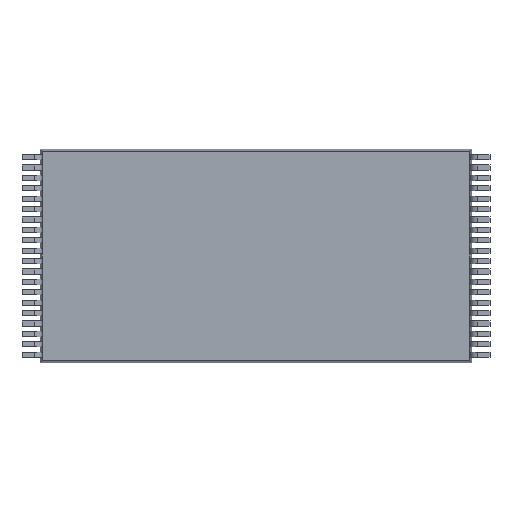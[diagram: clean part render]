
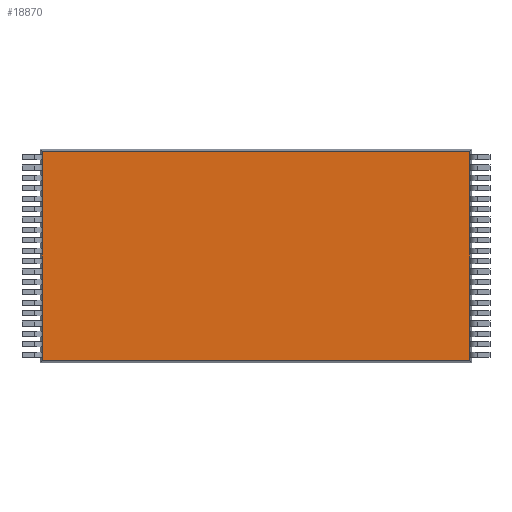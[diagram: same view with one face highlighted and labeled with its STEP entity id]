
A CAD part, front view. The second image highlights one B-rep face of the part: STEP entity #18870.
In plain terms, the highlighted planar face has unit normal (0, -1, 0).
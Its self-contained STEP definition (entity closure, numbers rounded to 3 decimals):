
#3143 = CARTESIAN_POINT ( 'NONE',  ( 8.216, 0.1, -4.016 ) ) ;
#4321 = DIRECTION ( 'NONE',  ( 0., 0., -1. ) ) ;
#4322 = VECTOR ( 'NONE', #4321, 1000. ) ;
#4323 = CARTESIAN_POINT ( 'NONE',  ( 8.216, 0.1, -4.1 ) ) ;
#4324 = LINE ( 'NONE', #4323, #4322 ) ;
#4345 = DIRECTION ( 'NONE',  ( -1., 0., 0. ) ) ;
#4346 = VECTOR ( 'NONE', #4345, 1000. ) ;
#4347 = CARTESIAN_POINT ( 'NONE',  ( -8.3, 0.1, -4.016 ) ) ;
#4348 = LINE ( 'NONE', #4347, #4346 ) ;
#4359 = CARTESIAN_POINT ( 'NONE',  ( 8.216, 0.1, 4.016 ) ) ;
#7907 = DIRECTION ( 'NONE',  ( 1., 0., 0. ) ) ;
#7908 = VECTOR ( 'NONE', #7907, 1000. ) ;
#7909 = CARTESIAN_POINT ( 'NONE',  ( -8.3, 0.1, 4.016 ) ) ;
#7911 = DIRECTION ( 'NONE',  ( 0., 0., 1. ) ) ;
#7912 = DIRECTION ( 'NONE',  ( 0., 1., 0. ) ) ;
#7913 = CARTESIAN_POINT ( 'NONE',  ( -8.3, 0.1, -4.1 ) ) ;
#7914 = LINE ( 'NONE', #7909, #7908 ) ;
#7915 = AXIS2_PLACEMENT_3D ( 'NONE', #7913, #7912, #7911 ) ;
#7916 = PLANE ( 'NONE',  #7915 ) ;
#7917 = FACE_OUTER_BOUND ( 'NONE', #18867, .T. ) ;
#8205 = VERTEX_POINT ( 'NONE', #15077 ) ;
#8207 = EDGE_CURVE ( 'NONE', #8205, #8208, #15076, .T. ) ;
#8208 = VERTEX_POINT ( 'NONE', #15072 ) ;
#10267 = VERTEX_POINT ( 'NONE', #3143 ) ;
#10677 = EDGE_CURVE ( 'NONE', #10694, #10267, #4324, .T. ) ;
#10694 = VERTEX_POINT ( 'NONE', #4359 ) ;
#10704 = EDGE_CURVE ( 'NONE', #10267, #8205, #4348, .T. ) ;
#15072 = CARTESIAN_POINT ( 'NONE',  ( -8.216, 0.1, 4.016 ) ) ;
#15073 = DIRECTION ( 'NONE',  ( 0., 0., 1. ) ) ;
#15074 = VECTOR ( 'NONE', #15073, 1000. ) ;
#15075 = CARTESIAN_POINT ( 'NONE',  ( -8.216, 0.1, -4.1 ) ) ;
#15076 = LINE ( 'NONE', #15075, #15074 ) ;
#15077 = CARTESIAN_POINT ( 'NONE',  ( -8.216, 0.1, -4.016 ) ) ;
#18842 = ORIENTED_EDGE ( 'NONE', *, *, #10704, .F. ) ;
#18853 = ORIENTED_EDGE ( 'NONE', *, *, #8207, .F. ) ;
#18867 = EDGE_LOOP ( 'NONE', ( #18853, #18842, #18898, #18895 ) ) ;
#18870 = ADVANCED_FACE ( 'NONE', ( #7917 ), #7916, .F. ) ;
#18871 = EDGE_CURVE ( 'NONE', #8208, #10694, #7914, .T. ) ;
#18895 = ORIENTED_EDGE ( 'NONE', *, *, #18871, .F. ) ;
#18898 = ORIENTED_EDGE ( 'NONE', *, *, #10677, .F. ) ;
